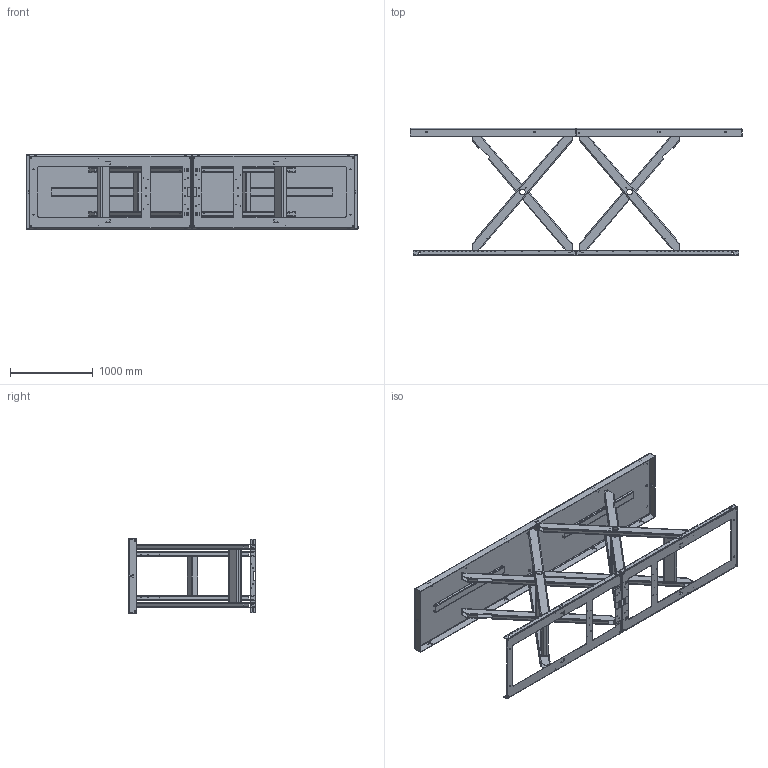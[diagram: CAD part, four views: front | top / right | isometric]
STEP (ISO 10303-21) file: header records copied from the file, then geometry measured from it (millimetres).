
FILE_DESCRIPTION(/* description */ ('TAH 4000'),/* implementation_level */ '2;1');
FILE_NAME(/* name */ 'C:\Autodesk_VaultWork\Ritningar\Exporterade modeller\TAH 4000 - (34395)\34395_Raised.stp',/* time_stamp */ '2020-06-10T15:50:41+02:00',/* author */ ('ANDMO'),/* organization */ (''),/* preprocessor_version */ 'ST-DEVELOPER v16.5',/* originating_system */ 'Autodesk Inventor 2017',/* authorisation */ '');
FILE_SCHEMA (('AUTOMOTIVE_DESIGN { 1 0 10303 214 3 1 1 }'));
Length unit declared in the file: millimetre
Products named in the file (28): 34395; 34396; 34231; 613202; 44870; 613203; 612693; 612693_1; 612695; 612697; ISO 4019 - 120x60x6 - 1892; 82092 - 649; 612694; 612696; ISO 4019 - 120x60x6 - 1892_1; ISO 4019 - 100x100x6 - 468; 614042; 614043; 45259; 614046; 614047; 614044; 614045; 41333-1175; 45387; 80131; 603235; 85955
Assembly tree (65 placements, depth 5):
  34395
    34396
      34231  x2
        613202
        45259
        44870
        613203
    612693
      612695
        612697  x2
          ISO 4019 - 120x60x6 - 1892
        82092 - 649
      612694
        612696  x2
          ISO 4019 - 120x60x6 - 1892_1
        ISO 4019 - 100x100x6 - 468
    612693_1
      612695
        612697  x2
          ISO 4019 - 120x60x6 - 1892
        82092 - 649
      612694
        612696  x2
          ISO 4019 - 120x60x6 - 1892_1
        ISO 4019 - 100x100x6 - 468
    614042
      614043
      614044
      614045
      41333-1175
      45259  x2
      85955  x3
      45387  x7
      80131  x4
    614046
      614047
      614044
      614045
      41333-1175
      85955  x3
      45387  x5
      80131  x4
      603235  x4
Bounding box: 4000 x 1530 x 900 mm (x, y, z)
Volume: 73068799.8 mm3; surface area: 25157142.3 mm2
Topology: 64 solids, 64 shells, 3058 faces, 8510 edges, 5592 vertices
Faces by surface type: plane 1448, cylinder 1382, cone 176, torus 36, bspline 16
Full cylindrical faces by diameter (mm): 5.6 x8, 7 x16, 7.4 x24, 8 x8, 10 x4, 10.5 x8, 11.63 x8, 12.5 x12, 13 x8, 13.835 x30, 14.2 x32, 18.8 x12, 19 x6, 28.1 x6, 70 x8, 78 x8
Entity records: 42875 total; most frequent: CARTESIAN_POINT 7720, DIRECTION 7416, ORIENTED_EDGE 6990, EDGE_CURVE 3495, AXIS2_PLACEMENT_3D 2617, VERTEX_POINT 2343, LINE 2182, VECTOR 2182
